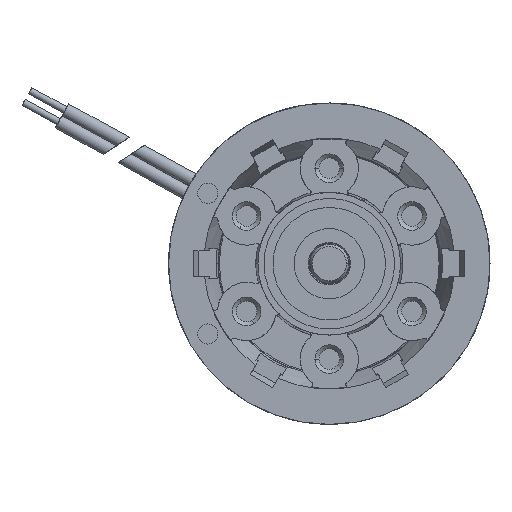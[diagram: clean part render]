
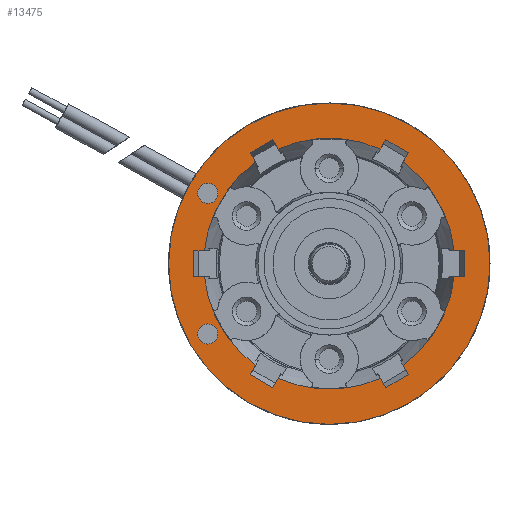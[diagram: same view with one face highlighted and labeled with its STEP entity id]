
A CAD part, left-side view. The second image highlights one B-rep face of the part: STEP entity #13475.
In plain terms, the highlighted planar face has unit normal (-1, 0, 0).
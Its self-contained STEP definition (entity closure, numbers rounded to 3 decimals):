
#2410=CARTESIAN_POINT('',(-1.9,0.,0.));
#2411=DIRECTION('',(-1.,0.,0.));
#2412=DIRECTION('',(0.,1.,0.));
#2413=AXIS2_PLACEMENT_3D('',#2410,#2411,#2412);
#2418=CARTESIAN_POINT('',(-1.9,0.,0.));
#2419=DIRECTION('',(1.,0.,0.));
#2420=DIRECTION('',(0.,1.,0.));
#2421=AXIS2_PLACEMENT_3D('',#2418,#2419,#2420);
#2426=DIRECTION('',(0.,-0.866,0.5));
#2427=VECTOR('',#2426,2.6);
#2428=CARTESIAN_POINT('',(-1.9,7.876,11.041));
#2429=LINE('',#2428,#2427);
#2433=DIRECTION('',(0.,-0.5,-0.866));
#2434=VECTOR('',#2433,1.068);
#2435=CARTESIAN_POINT('',(-1.9,7.876,11.041));
#2436=LINE('',#2435,#2434);
#2440=CARTESIAN_POINT('',(-1.9,0.,0.));
#2441=DIRECTION('',(1.,0.,0.));
#2442=DIRECTION('',(0.,0.995,0.104));
#2443=AXIS2_PLACEMENT_3D('',#2440,#2441,#2442);
#2448=DIRECTION('',(0.,1.,0.));
#2449=VECTOR('',#2448,1.068);
#2450=CARTESIAN_POINT('',(-1.9,12.432,1.3));
#2451=LINE('',#2450,#2449);
#2455=DIRECTION('',(0.,0.,1.));
#2456=VECTOR('',#2455,2.6);
#2457=CARTESIAN_POINT('',(-1.9,13.5,-1.3));
#2458=LINE('',#2457,#2456);
#2462=DIRECTION('',(0.,-1.,0.));
#2463=VECTOR('',#2462,1.068);
#2464=CARTESIAN_POINT('',(-1.9,13.5,-1.3));
#2465=LINE('',#2464,#2463);
#2469=CARTESIAN_POINT('',(-1.9,0.,0.));
#2470=DIRECTION('',(1.,0.,0.));
#2471=DIRECTION('',(0.,0.587,-0.809));
#2472=AXIS2_PLACEMENT_3D('',#2469,#2470,#2471);
#2477=DIRECTION('',(0.,0.5,-0.866));
#2478=VECTOR('',#2477,1.068);
#2479=CARTESIAN_POINT('',(-1.9,7.342,-10.117));
#2480=LINE('',#2479,#2478);
#2484=DIRECTION('',(0.,0.866,0.5));
#2485=VECTOR('',#2484,2.6);
#2486=CARTESIAN_POINT('',(-1.9,5.624,-12.341));
#2487=LINE('',#2486,#2485);
#2491=DIRECTION('',(0.,-0.5,0.866));
#2492=VECTOR('',#2491,1.068);
#2493=CARTESIAN_POINT('',(-1.9,5.624,-12.341));
#2494=LINE('',#2493,#2492);
#2498=CARTESIAN_POINT('',(-1.9,0.,0.));
#2499=DIRECTION('',(1.,0.,0.));
#2500=DIRECTION('',(0.,-0.407,-0.913));
#2501=AXIS2_PLACEMENT_3D('',#2498,#2499,#2500);
#2506=DIRECTION('',(0.,-0.5,-0.866));
#2507=VECTOR('',#2506,1.068);
#2508=CARTESIAN_POINT('',(-1.9,-5.09,-11.417));
#2509=LINE('',#2508,#2507);
#2513=DIRECTION('',(0.,0.866,-0.5));
#2514=VECTOR('',#2513,2.6);
#2515=CARTESIAN_POINT('',(-1.9,-7.876,-11.041));
#2516=LINE('',#2515,#2514);
#2520=DIRECTION('',(0.,0.5,0.866));
#2521=VECTOR('',#2520,1.068);
#2522=CARTESIAN_POINT('',(-1.9,-7.876,-11.041));
#2523=LINE('',#2522,#2521);
#2527=CARTESIAN_POINT('',(-1.9,0.,0.));
#2528=DIRECTION('',(1.,0.,0.));
#2529=DIRECTION('',(0.,-0.995,-0.104));
#2530=AXIS2_PLACEMENT_3D('',#2527,#2528,#2529);
#2535=DIRECTION('',(0.,-1.,0.));
#2536=VECTOR('',#2535,1.068);
#2537=CARTESIAN_POINT('',(-1.9,-12.432,-1.3));
#2538=LINE('',#2537,#2536);
#2542=DIRECTION('',(0.,0.,-1.));
#2543=VECTOR('',#2542,2.6);
#2544=CARTESIAN_POINT('',(-1.9,-13.5,1.3));
#2545=LINE('',#2544,#2543);
#2549=DIRECTION('',(0.,1.,0.));
#2550=VECTOR('',#2549,1.068);
#2551=CARTESIAN_POINT('',(-1.9,-13.5,1.3));
#2552=LINE('',#2551,#2550);
#2556=CARTESIAN_POINT('',(-1.9,0.,0.));
#2557=DIRECTION('',(1.,0.,0.));
#2558=DIRECTION('',(0.,-0.587,0.809));
#2559=AXIS2_PLACEMENT_3D('',#2556,#2557,#2558);
#2564=DIRECTION('',(0.,-0.5,0.866));
#2565=VECTOR('',#2564,1.068);
#2566=CARTESIAN_POINT('',(-1.9,-7.342,10.117));
#2567=LINE('',#2566,#2565);
#2571=DIRECTION('',(0.,-0.866,-0.5));
#2572=VECTOR('',#2571,2.6);
#2573=CARTESIAN_POINT('',(-1.9,-5.624,12.341));
#2574=LINE('',#2573,#2572);
#2578=DIRECTION('',(0.,0.5,-0.866));
#2579=VECTOR('',#2578,1.068);
#2580=CARTESIAN_POINT('',(-1.9,-5.624,12.341));
#2581=LINE('',#2580,#2579);
#2585=CARTESIAN_POINT('',(-1.9,0.,0.));
#2586=DIRECTION('',(1.,0.,0.));
#2587=DIRECTION('',(0.,0.407,0.913));
#2588=AXIS2_PLACEMENT_3D('',#2585,#2586,#2587);
#2593=DIRECTION('',(0.,0.5,0.866));
#2594=VECTOR('',#2593,1.068);
#2595=CARTESIAN_POINT('',(-1.9,5.09,11.417));
#2596=LINE('',#2595,#2594);
#2600=CARTESIAN_POINT('',(-1.9,12.1,-7.));
#2601=DIRECTION('',(1.,0.,0.));
#2602=DIRECTION('',(0.,1.,0.));
#2603=AXIS2_PLACEMENT_3D('',#2600,#2601,#2602);
#2608=CARTESIAN_POINT('',(-1.9,12.1,-7.));
#2609=DIRECTION('',(1.,0.,0.));
#2610=DIRECTION('',(0.,-1.,0.));
#2611=AXIS2_PLACEMENT_3D('',#2608,#2609,#2610);
#2616=CARTESIAN_POINT('',(-1.9,12.1,7.));
#2617=DIRECTION('',(-1.,0.,0.));
#2618=DIRECTION('',(0.,1.,0.));
#2619=AXIS2_PLACEMENT_3D('',#2616,#2617,#2618);
#2624=CARTESIAN_POINT('',(-1.9,12.1,7.));
#2625=DIRECTION('',(-1.,0.,0.));
#2626=DIRECTION('',(0.,-1.,0.));
#2627=AXIS2_PLACEMENT_3D('',#2624,#2625,#2626);
#9765=CARTESIAN_POINT('',(-1.9,16.,0.));
#9766=CARTESIAN_POINT('',(-1.9,-16.,0.));
#9767=VERTEX_POINT('',#9765);
#9768=VERTEX_POINT('',#9766);
#9796=CARTESIAN_POINT('',(-1.9,13.5,-1.3));
#9797=CARTESIAN_POINT('',(-1.9,13.5,1.3));
#9798=VERTEX_POINT('',#9796);
#9799=VERTEX_POINT('',#9797);
#9800=CARTESIAN_POINT('',(-1.9,12.432,-1.3));
#9801=VERTEX_POINT('',#9800);
#9802=CARTESIAN_POINT('',(-1.9,12.432,1.3));
#9803=VERTEX_POINT('',#9802);
#9826=CARTESIAN_POINT('',(-1.9,5.624,-12.341));
#9828=VERTEX_POINT('',#9826);
#9830=CARTESIAN_POINT('',(-1.9,7.876,-11.041));
#9832=VERTEX_POINT('',#9830);
#9850=CARTESIAN_POINT('',(-1.9,-7.876,-11.041));
#9852=VERTEX_POINT('',#9850);
#9854=CARTESIAN_POINT('',(-1.9,-5.624,-12.341));
#9856=VERTEX_POINT('',#9854);
#9874=CARTESIAN_POINT('',(-1.9,-13.5,1.3));
#9876=VERTEX_POINT('',#9874);
#9878=CARTESIAN_POINT('',(-1.9,-13.5,-1.3));
#9880=VERTEX_POINT('',#9878);
#9898=CARTESIAN_POINT('',(-1.9,-5.624,12.341));
#9900=VERTEX_POINT('',#9898);
#9902=CARTESIAN_POINT('',(-1.9,-7.876,11.041));
#9904=VERTEX_POINT('',#9902);
#9922=CARTESIAN_POINT('',(-1.9,7.876,11.041));
#9924=VERTEX_POINT('',#9922);
#9926=CARTESIAN_POINT('',(-1.9,5.624,12.341));
#9928=VERTEX_POINT('',#9926);
#9930=CARTESIAN_POINT('',(-1.9,5.09,-11.417));
#9931=VERTEX_POINT('',#9930);
#9932=CARTESIAN_POINT('',(-1.9,7.342,-10.117));
#9933=VERTEX_POINT('',#9932);
#9936=CARTESIAN_POINT('',(-1.9,-7.342,-10.117));
#9937=VERTEX_POINT('',#9936);
#9938=CARTESIAN_POINT('',(-1.9,-5.09,-11.417));
#9939=VERTEX_POINT('',#9938);
#9948=CARTESIAN_POINT('',(-1.9,-12.432,1.3));
#9949=VERTEX_POINT('',#9948);
#9950=CARTESIAN_POINT('',(-1.9,-12.432,-1.3));
#9951=VERTEX_POINT('',#9950);
#9954=CARTESIAN_POINT('',(-1.9,-5.09,11.417));
#9955=VERTEX_POINT('',#9954);
#9956=CARTESIAN_POINT('',(-1.9,-7.342,10.117));
#9957=VERTEX_POINT('',#9956);
#9960=CARTESIAN_POINT('',(-1.9,7.342,10.117));
#9961=VERTEX_POINT('',#9960);
#9962=CARTESIAN_POINT('',(-1.9,5.09,11.417));
#9963=VERTEX_POINT('',#9962);
#10232=CARTESIAN_POINT('',(-1.9,13.1,-7.));
#10233=CARTESIAN_POINT('',(-1.9,11.1,-7.));
#10234=VERTEX_POINT('',#10232);
#10235=VERTEX_POINT('',#10233);
#10240=CARTESIAN_POINT('',(-1.9,13.1,7.));
#10241=VERTEX_POINT('',#10240);
#10242=CARTESIAN_POINT('',(-1.9,11.1,7.));
#10243=VERTEX_POINT('',#10242);
#13406=CARTESIAN_POINT('',(-1.9,0.,0.));
#13407=DIRECTION('',(1.,0.,0.));
#13408=DIRECTION('',(0.,-1.,0.));
#13409=AXIS2_PLACEMENT_3D('',#13406,#13407,#13408);
#13410=PLANE('',#13409);
#13411=ORIENTED_EDGE('',*,*,#13128,.F.);
#13412=ORIENTED_EDGE('',*,*,#13182,.T.);
#13413=EDGE_LOOP('',(#13411,#13412));
#13414=FACE_OUTER_BOUND('',#13413,.F.);
#13416=ORIENTED_EDGE('',*,*,#13415,.F.);
#13418=ORIENTED_EDGE('',*,*,#13417,.T.);
#13420=ORIENTED_EDGE('',*,*,#13419,.F.);
#13422=ORIENTED_EDGE('',*,*,#13421,.T.);
#13424=ORIENTED_EDGE('',*,*,#13423,.F.);
#13426=ORIENTED_EDGE('',*,*,#13425,.T.);
#13428=ORIENTED_EDGE('',*,*,#13427,.F.);
#13430=ORIENTED_EDGE('',*,*,#13429,.T.);
#13432=ORIENTED_EDGE('',*,*,#13431,.F.);
#13434=ORIENTED_EDGE('',*,*,#13433,.T.);
#13436=ORIENTED_EDGE('',*,*,#13435,.F.);
#13438=ORIENTED_EDGE('',*,*,#13437,.T.);
#13440=ORIENTED_EDGE('',*,*,#13439,.F.);
#13442=ORIENTED_EDGE('',*,*,#13441,.T.);
#13444=ORIENTED_EDGE('',*,*,#13443,.F.);
#13446=ORIENTED_EDGE('',*,*,#13445,.T.);
#13447=ORIENTED_EDGE('',*,*,#13391,.F.);
#13448=ORIENTED_EDGE('',*,*,#13373,.T.);
#13450=ORIENTED_EDGE('',*,*,#13449,.F.);
#13452=ORIENTED_EDGE('',*,*,#13451,.T.);
#13454=ORIENTED_EDGE('',*,*,#13453,.F.);
#13456=ORIENTED_EDGE('',*,*,#13455,.T.);
#13458=ORIENTED_EDGE('',*,*,#13457,.F.);
#13460=ORIENTED_EDGE('',*,*,#13459,.T.);
#13461=EDGE_LOOP('',(#13416,#13418,#13420,#13422,#13424,#13426,#13428,#13430,
#13432,#13434,#13436,#13438,#13440,#13442,#13444,#13446,#13447,#13448,#13450,
#13452,#13454,#13456,#13458,#13460));
#13462=FACE_BOUND('',#13461,.F.);
#13464=ORIENTED_EDGE('',*,*,#13463,.F.);
#13466=ORIENTED_EDGE('',*,*,#13465,.F.);
#13467=EDGE_LOOP('',(#13464,#13466));
#13468=FACE_BOUND('',#13467,.F.);
#13470=ORIENTED_EDGE('',*,*,#13469,.T.);
#13472=ORIENTED_EDGE('',*,*,#13471,.T.);
#13473=EDGE_LOOP('',(#13470,#13472));
#13474=FACE_BOUND('',#13473,.F.);
#13475=ADVANCED_FACE('',(#13414,#13462,#13468,#13474),#13410,.F.);
#2414=CIRCLE('',#2413,16.);
#2422=CIRCLE('',#2421,16.);
#2444=CIRCLE('',#2443,12.5);
#2473=CIRCLE('',#2472,12.5);
#2502=CIRCLE('',#2501,12.5);
#2531=CIRCLE('',#2530,12.5);
#2560=CIRCLE('',#2559,12.5);
#2589=CIRCLE('',#2588,12.5);
#2604=CIRCLE('',#2603,1.);
#2612=CIRCLE('',#2611,1.);
#2620=CIRCLE('',#2619,1.);
#2628=CIRCLE('',#2627,1.);
#13128=EDGE_CURVE('',#9767,#9768,#2414,.T.);
#13182=EDGE_CURVE('',#9767,#9768,#2422,.T.);
#13373=EDGE_CURVE('',#9876,#9949,#2552,.T.);
#13391=EDGE_CURVE('',#9876,#9880,#2545,.T.);
#13415=EDGE_CURVE('',#9924,#9928,#2429,.T.);
#13417=EDGE_CURVE('',#9924,#9961,#2436,.T.);
#13419=EDGE_CURVE('',#9803,#9961,#2444,.T.);
#13421=EDGE_CURVE('',#9803,#9799,#2451,.T.);
#13423=EDGE_CURVE('',#9798,#9799,#2458,.T.);
#13425=EDGE_CURVE('',#9798,#9801,#2465,.T.);
#13427=EDGE_CURVE('',#9933,#9801,#2473,.T.);
#13429=EDGE_CURVE('',#9933,#9832,#2480,.T.);
#13431=EDGE_CURVE('',#9828,#9832,#2487,.T.);
#13433=EDGE_CURVE('',#9828,#9931,#2494,.T.);
#13435=EDGE_CURVE('',#9939,#9931,#2502,.T.);
#13437=EDGE_CURVE('',#9939,#9856,#2509,.T.);
#13439=EDGE_CURVE('',#9852,#9856,#2516,.T.);
#13441=EDGE_CURVE('',#9852,#9937,#2523,.T.);
#13443=EDGE_CURVE('',#9951,#9937,#2531,.T.);
#13445=EDGE_CURVE('',#9951,#9880,#2538,.T.);
#13449=EDGE_CURVE('',#9957,#9949,#2560,.T.);
#13451=EDGE_CURVE('',#9957,#9904,#2567,.T.);
#13453=EDGE_CURVE('',#9900,#9904,#2574,.T.);
#13455=EDGE_CURVE('',#9900,#9955,#2581,.T.);
#13457=EDGE_CURVE('',#9963,#9955,#2589,.T.);
#13459=EDGE_CURVE('',#9963,#9928,#2596,.T.);
#13463=EDGE_CURVE('',#10234,#10235,#2604,.T.);
#13465=EDGE_CURVE('',#10235,#10234,#2612,.T.);
#13469=EDGE_CURVE('',#10241,#10243,#2620,.T.);
#13471=EDGE_CURVE('',#10243,#10241,#2628,.T.);
